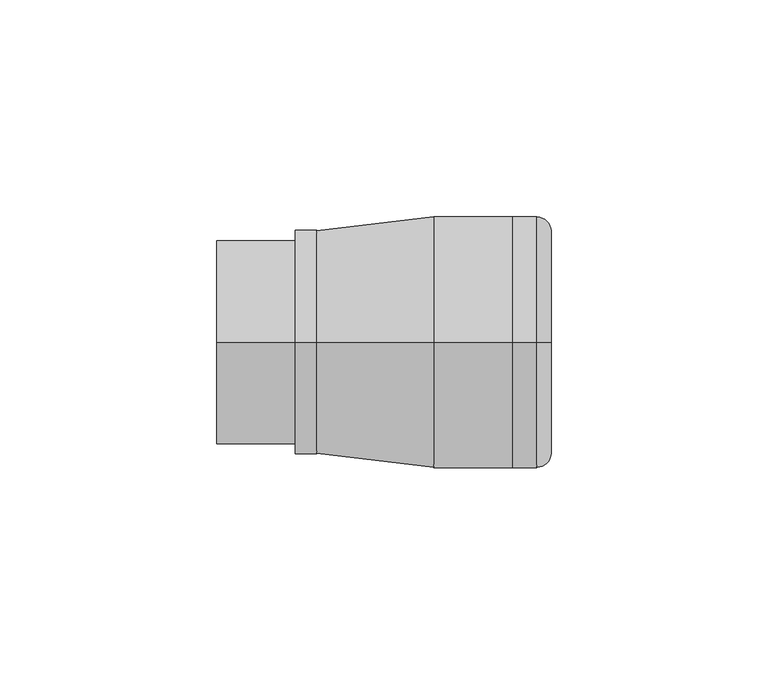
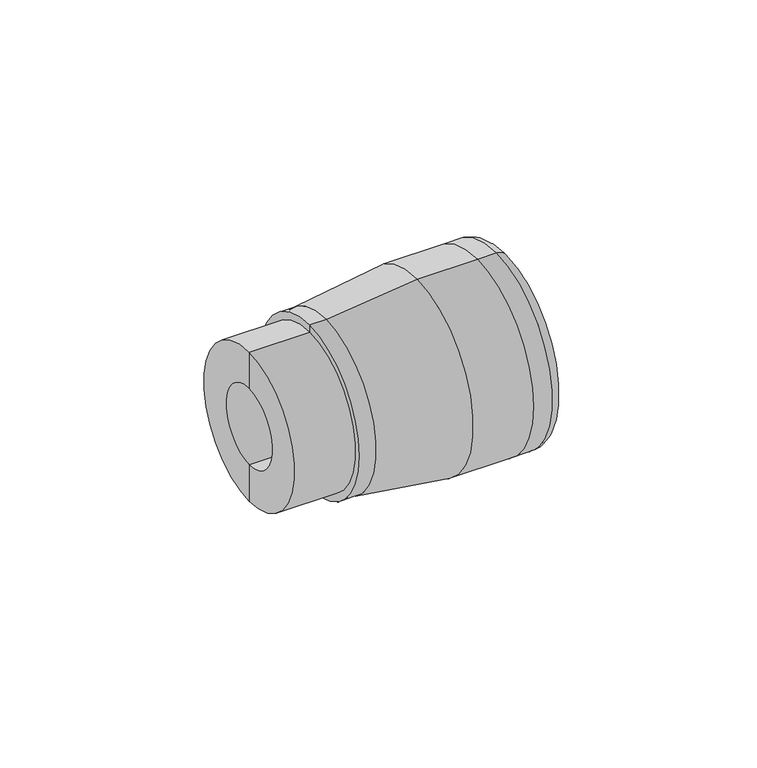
"""IFC4 building model written with IfcOpenShell, lengths in millimetres: pipe fitting geometry, Plumbing_Pipe-Fittings_Plasson_Female-Adaptor_1003 : Plumbing_Pipe-Fittings_Plasson_Female-Adaptor_1003."""

from ifc_helpers import new_model, si_unit, point, frame, origin, place, context, project, spatial, polyline, circle_curve, ellipse_curve, trimmed, source, transform, mapped, element, save
from ifc_brep_helpers import plane_surface, cylinder_surface, revolved_surface, advanced_brep


def pipe_fitting_22662af9(model_context):
    return source(origin(), model_context, "Body", "AdvancedBrep", [
        advanced_brep(
        [(0.8817136, 0.0, -23.5), (0.8817136, 0.0, 23.5), (0.8817136, 0.0, 12.05), (0.8817136, 0.0, -12.05), (-17.1182864, 0.0, -23.5), (-17.1182864, 0.0, 23.5), (-17.1182864, 0.0, -12.05), (-17.1182864, 0.0, 12.05)],
        [
            (0, 1, circle_curve(frame((0.8817136, 0.0, 0.0), z_axis=(1.0, 0.0, 0.0), x_axis=(0.0, 0.0, 1.0)), 23.5)),
            (1, 2),
            (2, 3, circle_curve(frame((0.8817136, 0.0, 0.0), z_axis=(-1.0, 0.0, 0.0), x_axis=(0.0, 0.0, 1.0)), 12.05)),
            (3, 0),
            (1, 0, circle_curve(frame((0.8817136, 0.0, 0.0), z_axis=(1.0, 0.0, 0.0), x_axis=(0.0, 0.0, 1.0)), 23.5)),
            (3, 2, circle_curve(frame((0.8817136, 0.0, 0.0), z_axis=(-1.0, 0.0, 0.0), x_axis=(0.0, 0.0, 1.0)), 12.05)),
            (4, 5, circle_curve(frame((-17.1182864, 0.0, 0.0), z_axis=(1.0, 0.0, 0.0), x_axis=(0.0, 0.0, 1.0)), 23.5)),
            (5, 1),
            (0, 4),
            (5, 4, circle_curve(frame((-17.1182864, 0.0, 0.0), z_axis=(1.0, 0.0, 0.0), x_axis=(0.0, 0.0, 1.0)), 23.5)),
            (6, 7, circle_curve(frame((-17.1182864, 0.0, 0.0), z_axis=(1.0, 0.0, 0.0), x_axis=(0.0, 0.0, 1.0)), 12.05)),
            (7, 5),
            (4, 6),
            (7, 6, circle_curve(frame((-17.1182864, 0.0, 0.0), z_axis=(1.0, 0.0, 0.0), x_axis=(0.0, 0.0, 1.0)), 12.05)),
            (2, 7),
            (6, 3),
        ],
        [
            plane_surface(frame((0.8817136, 0.0, 0.0), z_axis=(1.0, 0.0, 0.0), x_axis=(0.0, 0.0, 1.0))),
            cylinder_surface(frame((-4.784953, 0.0, 0.0), z_axis=(-1.0, 0.0, 0.0), x_axis=(0.0, 0.0, 1.0)), 23.5),
            plane_surface(frame((-17.1182864, 0.0, 0.0), z_axis=(-1.0, 0.0, 0.0), x_axis=(0.0, 0.0, 1.0))),
            revolved_surface(polyline([(-17.1182864, 0.0, 12.05), (0.8817136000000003, 0.0, 12.05)]), (-4.784953, 0.0, 0.0), (-1.0, 0.0, 0.0)),
        ],
        [
            (0, [[1, 2, 3, 4]]),
            (0, [[5, -4, 6, -2]]),
            (1, [[7, 8, -1, 9]]),
            (1, [[10, -9, -5, -8]]),
            (2, [[11, 12, -7, 13]]),
            (2, [[14, -13, -10, -12]]),
            (3, [[-3, 15, -11, 16]]),
            (3, [[-6, -16, -14, -15]]),
        ],
    ),
        advanced_brep(
        [(5.8817136, 0.0, -25.75), (5.8817136, 0.0, 25.75), (32.8817136, 0.0, 29.0), (32.8817136, 0.0, -29.0), (0.8817136, 0.0, -25.75), (0.8817136, 0.0, 25.75), (0.8817136, 0.0, -13.7257346), (0.8817136, 0.0, 13.7257346), (5.8817136, 0.0, -13.7257346), (5.8817136, 0.0, 13.7257346), (5.8817136, 0.0, -16.0), (5.8817136, 0.0, 16.0), (50.8817136, 0.0, -16.0), (50.8817136, 0.0, 16.0), (50.8817136, 0.0, -29.0), (50.8817136, 0.0, 29.0)],
        [
            (0, 1, circle_curve(frame((5.8817136, 0.0, 0.0), z_axis=(1.0, 0.0, 0.0), x_axis=(0.0, 0.0, 1.0)), 25.75)),
            (1, 2, circle_curve(frame((2.5771804, 0.0, 166.9818917), z_axis=(0.0, -1.0, 0.0), x_axis=(1.0, 0.0, 0.0)), 141.270546)),
            (2, 3, circle_curve(frame((32.8817136, 0.0, 0.0), z_axis=(-1.0, 0.0, 0.0), x_axis=(0.0, 0.0, 1.0)), 29.0)),
            (3, 0, circle_curve(frame((2.5771804, 0.0, -166.9818917), z_axis=(0.0, -1.0, 0.0), x_axis=(1.0, 0.0, 0.0)), 141.270546)),
            (1, 0, circle_curve(frame((5.8817136, 0.0, 0.0), z_axis=(1.0, 0.0, 0.0), x_axis=(0.0, 0.0, 1.0)), 25.75)),
            (3, 2, circle_curve(frame((32.8817136, 0.0, 0.0), z_axis=(-1.0, 0.0, 0.0), x_axis=(0.0, 0.0, 1.0)), 29.0)),
            (4, 5, circle_curve(frame((0.8817136, 0.0, 0.0), z_axis=(1.0, 0.0, 0.0), x_axis=(0.0, 0.0, 1.0)), 25.75)),
            (5, 1),
            (0, 4),
            (5, 4, circle_curve(frame((0.8817136, 0.0, 0.0), z_axis=(1.0, 0.0, 0.0), x_axis=(0.0, 0.0, 1.0)), 25.75)),
            (6, 7, circle_curve(frame((0.8817136, 0.0, 0.0), z_axis=(1.0, 0.0, 0.0), x_axis=(0.0, 0.0, 1.0)), 13.7257346)),
            (7, 5),
            (4, 6),
            (7, 6, circle_curve(frame((0.8817136, 0.0, 0.0), z_axis=(1.0, 0.0, 0.0), x_axis=(0.0, 0.0, 1.0)), 13.7257346)),
            (8, 9, circle_curve(frame((5.8817136, 0.0, 0.0), z_axis=(1.0, 0.0, 0.0), x_axis=(0.0, 0.0, 1.0)), 13.7257346)),
            (9, 7),
            (6, 8),
            (9, 8, circle_curve(frame((5.8817136, 0.0, 0.0), z_axis=(1.0, 0.0, 0.0), x_axis=(0.0, 0.0, 1.0)), 13.7257346)),
            (10, 11, circle_curve(frame((5.8817136, 0.0, 0.0), z_axis=(1.0, 0.0, 0.0), x_axis=(0.0, 0.0, 1.0)), 16.0)),
            (11, 9),
            (8, 10),
            (11, 10, circle_curve(frame((5.8817136, 0.0, 0.0), z_axis=(1.0, 0.0, 0.0), x_axis=(0.0, 0.0, 1.0)), 16.0)),
            (12, 13, circle_curve(frame((50.8817136, 0.0, 0.0), z_axis=(1.0, 0.0, 0.0), x_axis=(0.0, 0.0, 1.0)), 16.0)),
            (13, 11),
            (10, 12),
            (13, 12, circle_curve(frame((50.8817136, 0.0, 0.0), z_axis=(1.0, 0.0, 0.0), x_axis=(0.0, 0.0, 1.0)), 16.0)),
            (14, 15, circle_curve(frame((50.8817136, 0.0, 0.0), z_axis=(1.0, 0.0, 0.0), x_axis=(0.0, 0.0, 1.0)), 29.0)),
            (15, 13),
            (12, 14),
            (15, 14, circle_curve(frame((50.8817136, 0.0, 0.0), z_axis=(1.0, 0.0, 0.0), x_axis=(0.0, 0.0, 1.0)), 29.0)),
            (2, 15),
            (14, 3),
        ],
        [
            revolved_surface(trimmed(ellipse_curve(frame((2.5771804, 0.0, 166.9818917), z_axis=(0.0, 1.0, 0.0), x_axis=(1.0, 0.0, 0.0)), 141.270546, 141.270546), [point((32.8817136, 0.0, 29.0))], [point((5.8817136, 0.0, 25.75))], True, "CARTESIAN"), (32.8817136, 0.0, 0.0), (-1.0, 0.0, 0.0)),
            cylinder_surface(frame((32.8817136, 0.0, 0.0), z_axis=(-1.0, 0.0, 0.0), x_axis=(0.0, 0.0, 1.0)), 25.75),
            plane_surface(frame((0.8817136, 0.0, 0.0), z_axis=(-1.0, 0.0, 0.0), x_axis=(0.0, 0.0, 1.0))),
            revolved_surface(polyline([(0.8817136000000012, 0.0, 13.7257346), (5.881713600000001, 0.0, 13.7257346)]), (32.8817136, 0.0, 0.0), (-1.0, 0.0, 0.0)),
            plane_surface(frame((5.8817136, 0.0, 0.0), z_axis=(1.0, 0.0, 0.0), x_axis=(0.0, 0.0, 1.0))),
            revolved_surface(polyline([(5.881713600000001, 0.0, 16.0), (50.8817136, 0.0, 16.0)]), (32.8817136, 0.0, 0.0), (-1.0, 0.0, 0.0)),
            plane_surface(frame((50.8817136, 0.0, 0.0), z_axis=(1.0, 0.0, 0.0), x_axis=(0.0, 0.0, 1.0))),
            cylinder_surface(frame((32.8817136, 0.0, 0.0), z_axis=(-1.0, 0.0, 0.0), x_axis=(0.0, 0.0, 1.0)), 29.0),
        ],
        [
            (0, [[1, 2, 3, 4]]),
            (0, [[5, -4, 6, -2]]),
            (1, [[7, 8, -1, 9]]),
            (1, [[10, -9, -5, -8]]),
            (2, [[11, 12, -7, 13]]),
            (2, [[14, -13, -10, -12]]),
            (3, [[15, 16, -11, 17]]),
            (3, [[18, -17, -14, -16]]),
            (4, [[19, 20, -15, 21]]),
            (4, [[22, -21, -18, -20]]),
            (5, [[23, 24, -19, 25]]),
            (5, [[26, -25, -22, -24]]),
            (6, [[27, 28, -23, 29]]),
            (6, [[30, -29, -26, -28]]),
            (7, [[-3, 31, -27, 32]]),
            (7, [[-6, -32, -30, -31]]),
        ],
    ),
        advanced_brep(
        [(59.8817136, 0.0, -16.0), (59.8817136, 0.0, 16.0), (50.8817136, 0.0, 16.0), (50.8817136, 0.0, -16.0), (59.8817136, 0.0, -25.75), (59.8817136, 0.0, 25.75), (56.6317136, 0.0, -29.0), (56.6317136, 0.0, 29.0), (50.8817136, 0.0, -29.0), (50.8817136, 0.0, 29.0)],
        [
            (0, 1, circle_curve(frame((59.8817136, 0.0, 0.0), z_axis=(1.0, 0.0, 0.0), x_axis=(0.0, 0.0, 1.0)), 16.0)),
            (1, 2),
            (2, 3, circle_curve(frame((50.8817136, 0.0, 0.0), z_axis=(-1.0, 0.0, 0.0), x_axis=(0.0, 0.0, 1.0)), 16.0)),
            (3, 0),
            (1, 0, circle_curve(frame((59.8817136, 0.0, 0.0), z_axis=(1.0, 0.0, 0.0), x_axis=(0.0, 0.0, 1.0)), 16.0)),
            (3, 2, circle_curve(frame((50.8817136, 0.0, 0.0), z_axis=(-1.0, 0.0, 0.0), x_axis=(0.0, 0.0, 1.0)), 16.0)),
            (4, 5, circle_curve(frame((59.8817136, 0.0, 0.0), z_axis=(1.0, 0.0, 0.0), x_axis=(0.0, 0.0, 1.0)), 25.75)),
            (5, 1),
            (0, 4),
            (5, 4, circle_curve(frame((59.8817136, 0.0, 0.0), z_axis=(1.0, 0.0, 0.0), x_axis=(0.0, 0.0, 1.0)), 25.75)),
            (6, 7, circle_curve(frame((56.6317136, 0.0, 0.0), z_axis=(1.0, 0.0, 0.0), x_axis=(0.0, 0.0, 1.0)), 29.0)),
            (7, 5, circle_curve(frame((56.6317136, 0.0, 25.75), z_axis=(0.0, 1.0, 0.0), x_axis=(1.0, 0.0, 0.0)), 3.25)),
            (4, 6, circle_curve(frame((56.6317136, 0.0, -25.75), z_axis=(0.0, 1.0, 0.0), x_axis=(1.0, 0.0, 0.0)), 3.25)),
            (7, 6, circle_curve(frame((56.6317136, 0.0, 0.0), z_axis=(1.0, 0.0, 0.0), x_axis=(0.0, 0.0, 1.0)), 29.0)),
            (8, 9, circle_curve(frame((50.8817136, 0.0, 0.0), z_axis=(1.0, 0.0, 0.0), x_axis=(0.0, 0.0, 1.0)), 29.0)),
            (9, 7),
            (6, 8),
            (9, 8, circle_curve(frame((50.8817136, 0.0, 0.0), z_axis=(1.0, 0.0, 0.0), x_axis=(0.0, 0.0, 1.0)), 29.0)),
            (2, 9),
            (8, 3),
        ],
        [
            revolved_surface(polyline([(50.8817136, 0.0, 16.0), (59.8817136, 0.0, 16.0)]), (37.3288773, 0.0, 0.0), (-1.0, 0.0, 0.0)),
            plane_surface(frame((59.8817136, 0.0, 0.0), z_axis=(1.0, 0.0, 0.0), x_axis=(0.0, 0.0, 1.0))),
            revolved_surface(trimmed(ellipse_curve(frame((56.6317136, 0.0, 25.75), z_axis=(0.0, -1.0, 0.0), x_axis=(1.0, 0.0, 0.0)), 3.25, 3.25), [point((59.8817136, 0.0, 25.75))], [point((56.6317136, 0.0, 29.0))], True, "CARTESIAN"), (37.3288773, 0.0, 0.0), (-1.0, 0.0, 0.0)),
            cylinder_surface(frame((37.3288773, 0.0, 0.0), z_axis=(-1.0, 0.0, 0.0), x_axis=(0.0, 0.0, 1.0)), 29.0),
            plane_surface(frame((50.8817136, 0.0, 0.0), z_axis=(-1.0, 0.0, 0.0), x_axis=(0.0, 0.0, 1.0))),
        ],
        [
            (0, [[1, 2, 3, 4]]),
            (0, [[5, -4, 6, -2]]),
            (1, [[7, 8, -1, 9]]),
            (1, [[10, -9, -5, -8]]),
            (2, [[11, 12, -7, 13]]),
            (2, [[14, -13, -10, -12]]),
            (3, [[15, 16, -11, 17]]),
            (3, [[18, -17, -14, -16]]),
            (4, [[-3, 19, -15, 20]]),
            (4, [[-6, -20, -18, -19]]),
        ],
    ),
    ])


if __name__ == "__main__":
    model = new_model("IFC4")
    model_context = context("Model", 3, world=origin())
    ifc_project = project(units=[si_unit("LENGTHUNIT", "METRE", prefix="MILLI")], contexts=[model_context])
    site = spatial("IfcSite", under=ifc_project)
    building = spatial("IfcBuilding", under=site)
    placement = place(None, origin())
    pipe_fitting_shape = pipe_fitting_22662af9(model_context)
    element("IfcPipeFitting", 1, ObjectType="Plumbing_Pipe-Fittings_Plasson_Female-Adaptor_1003 : Plumbing_Pipe-Fittings_Plasson_Female-Adaptor_1003", at=placement, inside=building, context=model_context, shape_type="MappedRepresentation", body=[
        mapped(pipe_fitting_shape, transform((0.0, 0.0, 0.0), x_axis=(1.0, 0.0, 0.0), y_axis=(0.0, 1.0, 0.0), z_axis=(0.0, 0.0, 1.0))),
    ])
    save(model, "model.ifc")
